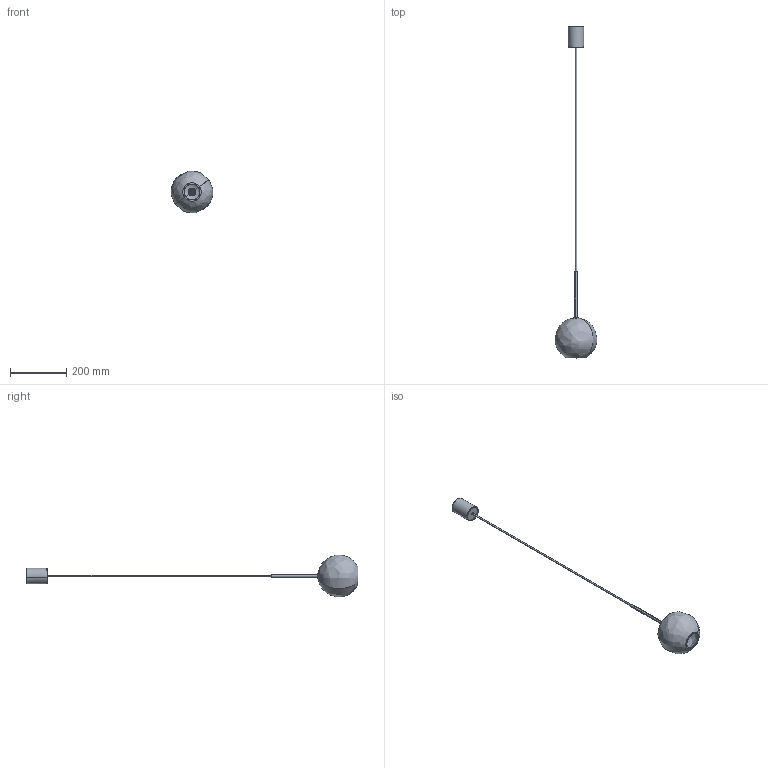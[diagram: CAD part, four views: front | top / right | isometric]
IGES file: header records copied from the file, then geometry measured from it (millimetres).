
Start section: SolidWorks IGES file using NURBS representation for surfaces
Global section: file name: Z:\Modele 3D_WWW\_KOLEKCJE_WWW\SPHERE\SPHERE-S-7847\SPHERE-S-7847.IGS; native system: SolidWorks 2021; preprocessor: SolidWorks 2021; author: gabriela.tworek; date: 210907.135528; units: millimetre
Bounding box: 149.04 x 1181.67 x 147.62 mm (x, y, z)
Surface area: 208923.3 mm2 (no closed solid volume)
Topology: 0 solids, 0 shells, 1100 faces, 8399 edges, 8380 vertices
Faces by surface type: bspline 1100
